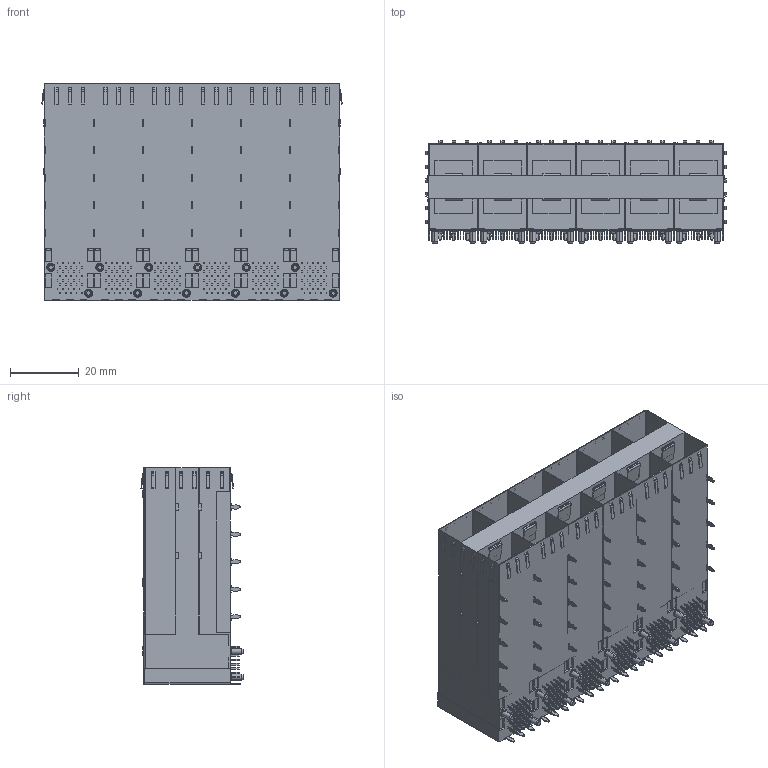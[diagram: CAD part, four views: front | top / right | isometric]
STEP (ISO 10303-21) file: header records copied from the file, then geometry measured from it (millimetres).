
FILE_DESCRIPTION (( 'STEP AP214' ), '1' );
FILE_NAME ('SFP 2X6 ﾎﾞﾔﾂﾑﾀ ﾎﾞｵﾆ.STEP', '2025-06-12T01:53:39', ( 'ﾉ｣ﾈｲｩｿﾍ' ), ( 'Www.SangSan.Cn' ), 'SwSTEP 2.0', 'SolidWorks 2018', '' );
FILE_SCHEMA (( 'AUTOMOTIVE_DESIGN' ));
Length unit declared in the file: millimetre
Products named in the file (1): SFP 2X6 拸堎挴 拸腑
Bounding box: 87.55 x 29.8 x 63.25 mm (x, y, z)
Volume: 69811.9 mm3; surface area: 48776.8 mm2
Topology: 1 solids, 1 shells, 3366 faces, 8930 edges, 5934 vertices
Faces by surface type: plane 2534, cylinder 782, cone 48, sphere 2
Entity records: 103782 total; most frequent: CARTESIAN_POINT 18229, ORIENTED_EDGE 17856, DIRECTION 17274, EDGE_CURVE 8928, LINE 7316, VECTOR 7316, VERTEX_POINT 5934, AXIS2_PLACEMENT_3D 4979
